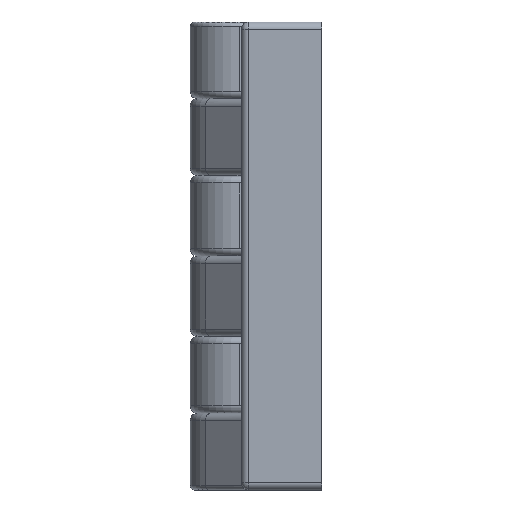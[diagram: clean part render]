
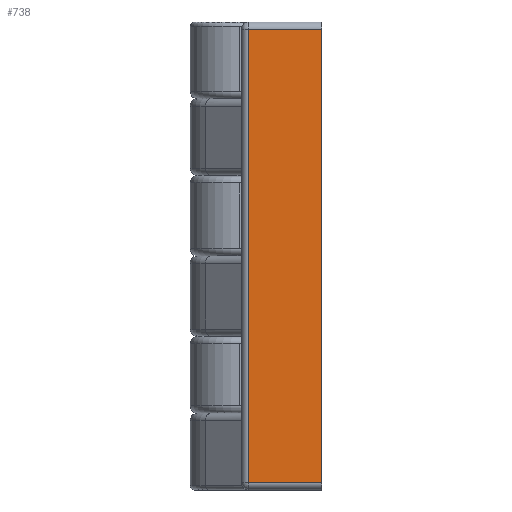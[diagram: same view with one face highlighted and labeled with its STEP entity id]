
A CAD part, left-side view. The second image highlights one B-rep face of the part: STEP entity #738.
In plain terms, the highlighted planar face has unit normal (-1, 0, 0) as drawn and (1, 0, 0) by its records, which use the part's own axes.
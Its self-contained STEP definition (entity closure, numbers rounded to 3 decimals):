
#79 = CARTESIAN_POINT ( 'NONE',  ( 31.5, -1.25, 63. ) ) ;
#188 = ORIENTED_EDGE ( 'NONE', *, *, #3609, .T. ) ;
#266 = CARTESIAN_POINT ( 'NONE',  ( 31.5, -11.25, 1. ) ) ;
#311 = CARTESIAN_POINT ( 'NONE',  ( 31.5, 0., 1. ) ) ;
#320 = EDGE_LOOP ( 'NONE', ( #4844, #933, #188, #1711 ) ) ;
#340 = DIRECTION ( 'NONE',  ( 0., 1., 0. ) ) ;
#428 = LINE ( 'NONE', #653, #534 ) ;
#461 = VECTOR ( 'NONE', #4562, 1000. ) ;
#534 = VECTOR ( 'NONE', #3433, 1000. ) ;
#653 = CARTESIAN_POINT ( 'NONE',  ( 31.5, -1.25, 64. ) ) ;
#679 = VERTEX_POINT ( 'NONE', #79 ) ;
#738 = ADVANCED_FACE ( 'NONE', ( #3280 ), #4179, .F. ) ;
#933 = ORIENTED_EDGE ( 'NONE', *, *, #1716, .T. ) ;
#1514 = LINE ( 'NONE', #4523, #461 ) ;
#1571 = LINE ( 'NONE', #311, #2510 ) ;
#1711 = ORIENTED_EDGE ( 'NONE', *, *, #3266, .T. ) ;
#1716 = EDGE_CURVE ( 'NONE', #3294, #4659, #1571, .T. ) ;
#2342 = DIRECTION ( 'NONE',  ( 0., 0., 1. ) ) ;
#2459 = EDGE_CURVE ( 'NONE', #2788, #3294, #1514, .T. ) ;
#2510 = VECTOR ( 'NONE', #340, 1000. ) ;
#2770 = CARTESIAN_POINT ( 'NONE',  ( 31.5, 0., 64. ) ) ;
#2788 = VERTEX_POINT ( 'NONE', #4503 ) ;
#3021 = DIRECTION ( 'NONE',  ( 0., -1., 0. ) ) ;
#3222 = VECTOR ( 'NONE', #3021, 1000. ) ;
#3266 = EDGE_CURVE ( 'NONE', #679, #2788, #4006, .T. ) ;
#3280 = FACE_OUTER_BOUND ( 'NONE', #320, .T. ) ;
#3294 = VERTEX_POINT ( 'NONE', #266 ) ;
#3433 = DIRECTION ( 'NONE',  ( 0., 0., 1. ) ) ;
#3438 = CARTESIAN_POINT ( 'NONE',  ( 31.5, -1.25, 1. ) ) ;
#3609 = EDGE_CURVE ( 'NONE', #4659, #679, #428, .T. ) ;
#4006 = LINE ( 'NONE', #4931, #3222 ) ;
#4179 = PLANE ( 'NONE',  #4980 ) ;
#4322 = DIRECTION ( 'NONE',  ( -1., 0., 0. ) ) ;
#4503 = CARTESIAN_POINT ( 'NONE',  ( 31.5, -11.25, 63. ) ) ;
#4523 = CARTESIAN_POINT ( 'NONE',  ( 31.5, -11.25, 64. ) ) ;
#4562 = DIRECTION ( 'NONE',  ( 0., 0., -1. ) ) ;
#4659 = VERTEX_POINT ( 'NONE', #3438 ) ;
#4844 = ORIENTED_EDGE ( 'NONE', *, *, #2459, .T. ) ;
#4931 = CARTESIAN_POINT ( 'NONE',  ( 31.5, -11.25, 63. ) ) ;
#4980 = AXIS2_PLACEMENT_3D ( 'NONE', #2770, #4322, #2342 ) ;
